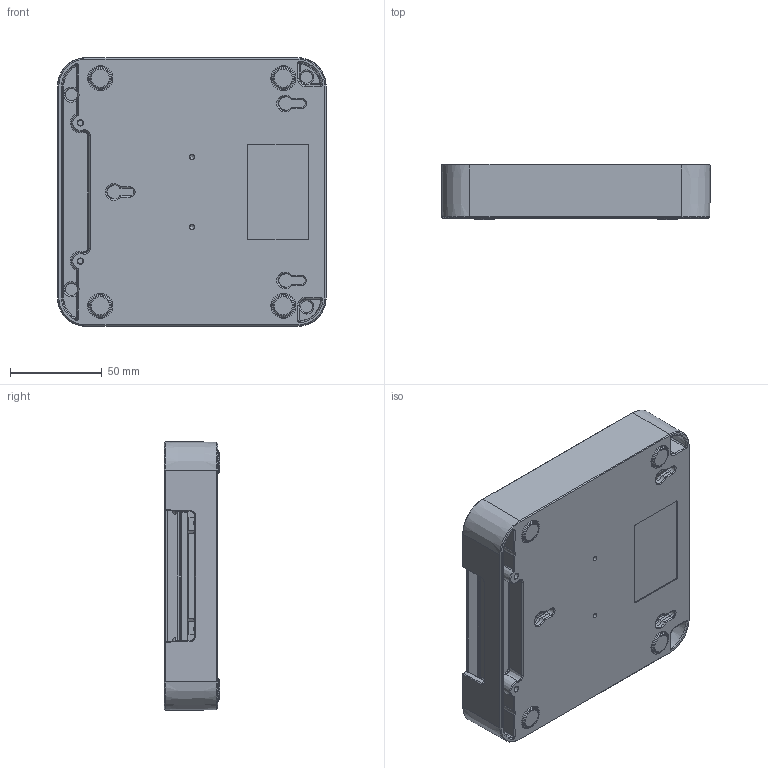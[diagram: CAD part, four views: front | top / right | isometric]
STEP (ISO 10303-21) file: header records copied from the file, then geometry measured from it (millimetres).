
FILE_DESCRIPTION((''),'2;1');
FILE_NAME('CU_SCB-68A','2012-09-27T',('dkendric'),(''),'PRO/ENGINEER BY PARAMETRIC TECHNOLOGY CORPORATION, 2011490','PRO/ENGINEER BY PARAMETRIC TECHNOLOGY CORPORATION, 2011490','');
FILE_SCHEMA(('CONFIG_CONTROL_DESIGN'));
Products named in the file (1): CU_SCB-68A
Bounding box: 146.7 x 30.28 x 146.55 mm (x, y, z)
Volume: 162112.6 mm3; surface area: 164546.6 mm2
Topology: 5 solids, 5 shells, 1702 faces, 4334 edges, 2707 vertices
Faces by surface type: plane 675, cylinder 409, torus 206, bspline 157, cone 150, extrusion 79, sphere 26
Entity records: 74431 total; most frequent: CARTESIAN_POINT 34699, ORIENTED_EDGE 8656, DIRECTION 7689, EDGE_CURVE 4328, AXIS2_PLACEMENT_3D 2719, VERTEX_POINT 2707, VECTOR 2251, LINE 2172
